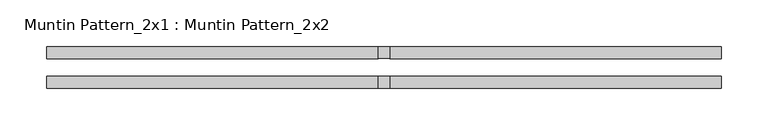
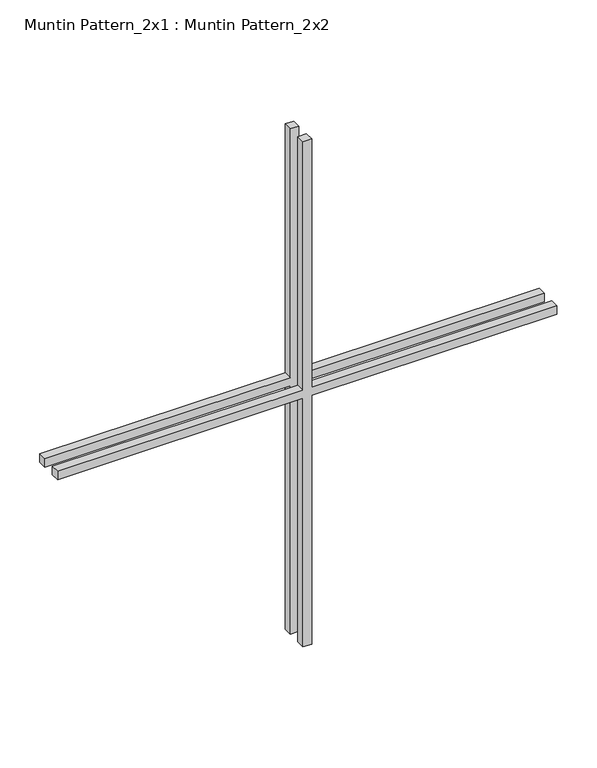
"""IFC4 building model written with IfcOpenShell, lengths in millimetres: proxy geometry, Muntin Pattern_2x1 : Muntin Pattern_2x2."""

from ifc_helpers import new_model, si_unit, frame, origin, place, context, project, spatial, polyline, outline, extrude, source, transform, mapped, element, save


def muntin_pattern_2x1_muntin_pattern_2x2_4837e2eb(model_context):
    return source(origin(), model_context, "Body", "SweptSolid", [
        extrude(outline(polyline([(393.7, -6.35), (393.7, -361.95), (381.0, -361.95), (381.0, -6.35), (0.0, -6.35), (0.0, 6.35), (381.0, 6.35), (381.0, 361.95), (393.7, 361.95), (393.7, 6.35), (774.7, 6.35), (774.7, -6.35), (393.7, -6.35)])), frame((0.0, 9.525, 0.0), z_axis=(0.0, 1.0, 0.0), x_axis=(0.0, 0.0, 1.0)), (0.0, 0.0, 1.0), 12.7),
        extrude(outline(polyline([(393.7, -6.35), (393.7, -361.95), (381.0, -361.95), (381.0, -6.35), (0.0, -6.35), (0.0, 6.35), (381.0, 6.35), (381.0, 361.95), (393.7, 361.95), (393.7, 6.35), (774.7, 6.35), (774.7, -6.35), (393.7, -6.35)])), frame((0.0, -22.225, 0.0), z_axis=(0.0, 1.0, 0.0), x_axis=(0.0, 0.0, 1.0)), (0.0, 0.0, 1.0), 12.7),
    ])


if __name__ == "__main__":
    model = new_model("IFC4")
    model_context = context("Model", 3, world=origin())
    ifc_project = project(units=[si_unit("LENGTHUNIT", "METRE", prefix="MILLI")], contexts=[model_context])
    site = spatial("IfcSite", under=ifc_project)
    building = spatial("IfcBuilding", under=site)
    placement = place(None, origin())
    muntin_pattern_2x1_muntin_pattern_2x2_shape = muntin_pattern_2x1_muntin_pattern_2x2_4837e2eb(model_context)
    element("IfcBuildingElementProxy", 1, Name="Muntin Pattern_2x1 : Muntin Pattern_2x2", ObjectType="Muntin Pattern_2x1 : Muntin Pattern_2x2", at=placement, inside=building, context=model_context, shape_type="MappedRepresentation", body=[
        mapped(muntin_pattern_2x1_muntin_pattern_2x2_shape, transform((0.0, 0.0, 0.0), x_axis=(1.0, 0.0, 0.0), y_axis=(0.0, 1.0, 0.0), z_axis=(0.0, 0.0, 1.0))),
    ])
    save(model, "model.ifc")
